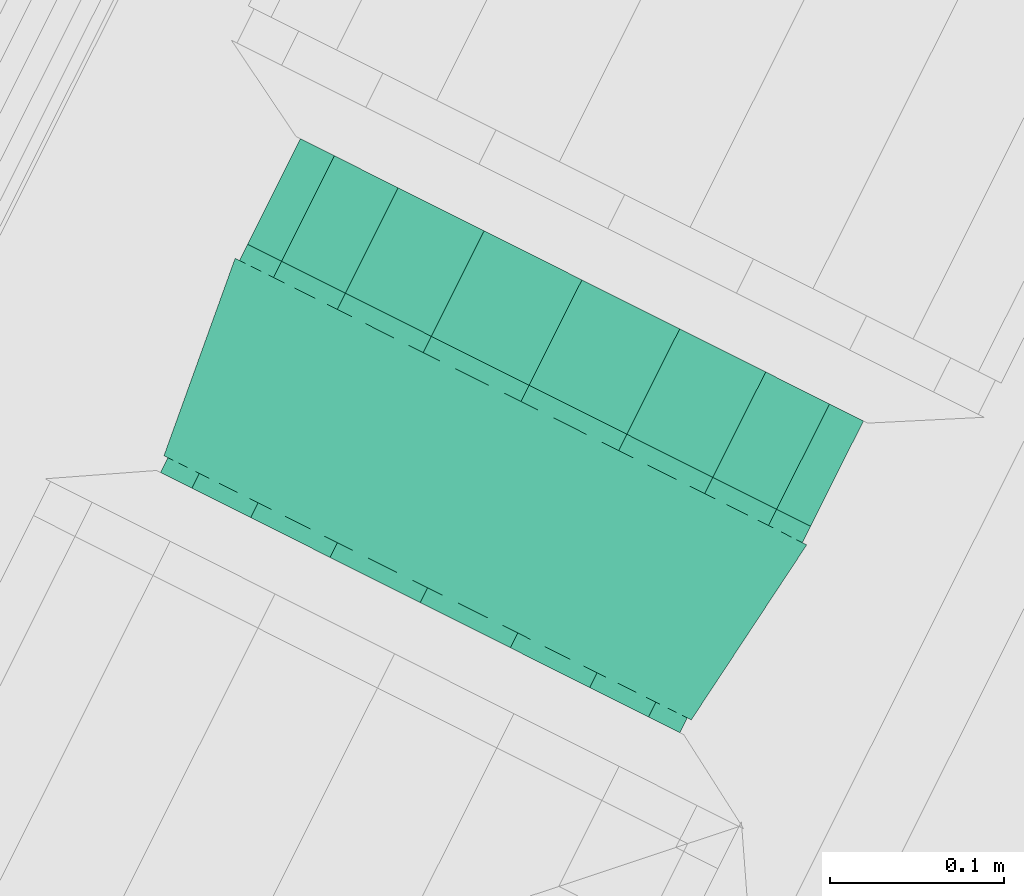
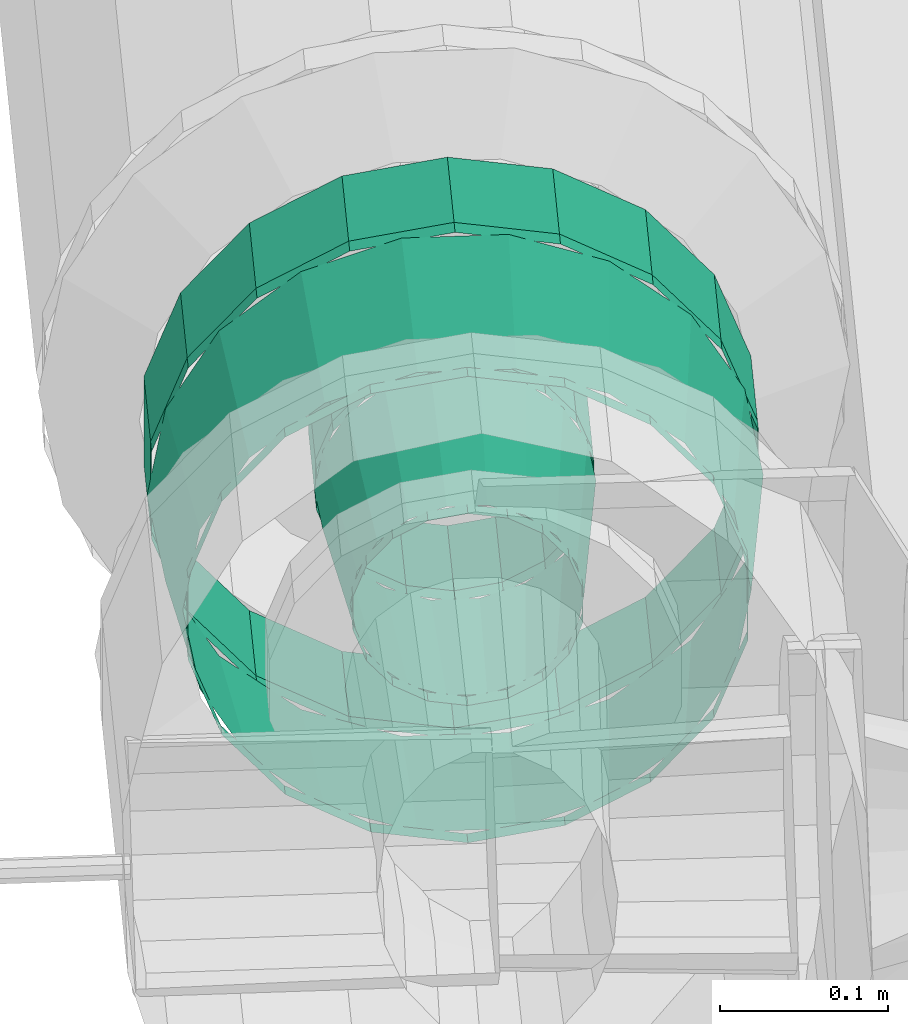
# One storey, part 126 of 206: 1 flow fitting, 1 flow segment.
"""IFC2X3 building model written with IfcOpenShell, lengths in metres."""

import ifcopenshell
import ifcopenshell.guid

model = None  # the IFC model being written
_history = None  # IfcOwnerHistory: only IFC2X3 demands one
_inside = {}  # id of a spatial element -> (the spatial element, [elements in it])
_under = {}  # id of a project, library or spatial element -> (it, [spatial elements below it])
_declared = {}  # id of a project -> (the project, [libraries it declares])
_typed = {}  # id of a type object -> (the type object, [elements of that type])
_made_of = {}  # id of a material, layer set ... -> (it, [elements and type objects made of it])


def new_model(schema):
    """Start an empty IFC model of exactly this schema.

    Asked for "IFC4X3", IfcOpenShell would pick the latest addendum, in which some entities
    have other attributes; the version numbers below select the first issue.
    IFC2X3 requires an IfcOwnerHistory on every rooted entity: one is made here for all.
    """
    global model, _history
    if schema == "IFC4X3":
        model = ifcopenshell.file(schema_version=(4, 3, 0, 0))
    else:
        model = ifcopenshell.file(schema=schema)
    _inside.clear()
    _under.clear()
    _declared.clear()
    _typed.clear()
    _made_of.clear()
    _history = None
    if model.schema == "IFC2X3":
        org = make("IfcOrganization", Name="unknown")
        user = make(
            "IfcPersonAndOrganization",
            ThePerson=make("IfcPerson", FamilyName="unknown"),
            TheOrganization=org,
        )
        app = make(
            "IfcApplication",
            ApplicationDeveloper=org,
            Version="unknown",
            ApplicationFullName="unknown",
            ApplicationIdentifier="unknown",
        )
        _history = make(
            "IfcOwnerHistory",
            OwningUser=user,
            OwningApplication=app,
            ChangeAction="ADDED",
            CreationDate=0,
        )
    return model


def make(cls, **values):
    """One entity of the class cls with the attributes given. An attribute that is None is left unset."""
    return model.create_entity(
        cls, **{name: value for name, value in values.items() if value is not None}
    )


def rooted(cls, **values):
    """An entity with a GlobalId (a new one), such as an element, a storey or a relation."""
    return make(cls, GlobalId=ifcopenshell.guid.new(), OwnerHistory=_history, **values)


def si_unit(unit_type, name, prefix=None):
    """IfcSIUnit, for example si_unit("LENGTHUNIT", "METRE", prefix="MILLI")."""
    return make("IfcSIUnit", UnitType=unit_type, Prefix=prefix, Name=name)


def derived_unit(unit_type, elements):
    """IfcDerivedUnit: a product of units, each with its exponent."""
    return make(
        "IfcDerivedUnit",
        Elements=[
            make("IfcDerivedUnitElement", Unit=unit, Exponent=power)
            for unit, power in elements
        ],
        UnitType=unit_type,
    )


def assignment(units):
    """IfcUnitAssignment: the units of a project."""
    return None if units is None else make("IfcUnitAssignment", Units=units)


def point(xyz):
    """IfcCartesianPoint."""
    return None if xyz is None else make("IfcCartesianPoint", Coordinates=xyz)


def direction(xyz):
    """IfcDirection."""
    return None if xyz is None else make("IfcDirection", DirectionRatios=xyz)


def frame(location, z_axis=None, x_axis=None):
    """IfcAxis2Placement3D, a coordinate frame: its origin and axes. An axis left out is left unset."""
    return make(
        "IfcAxis2Placement3D",
        Location=point(location),
        Axis=direction(z_axis),
        RefDirection=direction(x_axis),
    )


def origin():
    """The frame at (0, 0, 0) with its axes left unset."""
    return frame((0.0, 0.0, 0.0))


def place(relative_to, where):
    """IfcLocalPlacement: puts the frame where relative to a parent placement (None: the world)."""
    return make(
        "IfcLocalPlacement", PlacementRelTo=relative_to, RelativePlacement=where
    )


def context(
    kind, dimensions, precision=None, world=None, true_north=None, identifier=None
):
    """IfcGeometricRepresentationContext, for example the 3D "Model" context."""
    return make(
        "IfcGeometricRepresentationContext",
        ContextIdentifier=identifier,
        ContextType=kind,
        CoordinateSpaceDimension=dimensions,
        Precision=precision,
        WorldCoordinateSystem=world,
        TrueNorth=true_north,
    )


def subcontext(parent, identifier, kind, view, scale=None):
    """IfcGeometricRepresentationSubContext, for example "Body" below "Model"."""
    return make(
        "IfcGeometricRepresentationSubContext",
        ContextIdentifier=identifier,
        ContextType=kind,
        ParentContext=parent,
        TargetScale=scale,
        TargetView=view,
    )


def project(units=None, contexts=None):
    """IfcProject with its units and contexts."""
    return rooted(
        "IfcProject",
        Name="project",
        RepresentationContexts=contexts,
        UnitsInContext=assignment(units),
    )


def spatial(cls, under=None, at=None, **own):
    """A site, building, storey or space (cls), placed at a placement, below another one or the project."""
    s = rooted(cls, ObjectPlacement=at, **own)
    if under is not None:
        _under.setdefault(under.id(), (under, []))[1].append(s)
    return s


def faces_of(points, faces, orient=None, outer=None):
    """IfcFace entities. A face is a list of loops; a loop is a list of indices into points, from 0.

    orient and outer hold one flag for each loop. By default every Orientation is true, the
    first loop of a face is its IfcFaceOuterBound and the others are IfcFaceBound.
    """
    made = []
    for i, loops in enumerate(faces):
        bounds = []
        for j, loop in enumerate(loops):
            is_outer = j == 0 if outer is None else outer[i][j]
            bounds.append(
                make(
                    "IfcFaceOuterBound" if is_outer else "IfcFaceBound",
                    Bound=make("IfcPolyLoop", Polygon=[points[k] for k in loop]),
                    Orientation=True if orient is None else orient[i][j],
                )
            )
        made.append(make("IfcFace", Bounds=bounds))
    return made


def face_set(faces, orient=None, outer=None):
    """The faces of one IfcConnectedFaceSet. surface_model builds it on its shared points."""
    return ("IfcConnectedFaceSet", faces, orient, outer)


def surface_model(cls, points, shells):
    """IfcFaceBasedSurfaceModel or IfcShellBasedSurfaceModel (cls): surfaces that need not close."""
    shared = [point(p) for p in points]
    made = [make(c, CfsFaces=faces_of(shared, fs, o, b)) for c, fs, o, b in shells]
    if cls == "IfcFaceBasedSurfaceModel":
        return make(cls, FbsmFaces=made)
    return make(cls, SbsmBoundary=made)


def shape(context_of_items, identifier, shape_type, items):
    """IfcShapeRepresentation: the items that make up one representation, for example the "Body"."""
    return make(
        "IfcShapeRepresentation",
        ContextOfItems=context_of_items,
        RepresentationIdentifier=identifier,
        RepresentationType=shape_type,
        Items=items,
    )


def source(mapping_origin, context_of_items, identifier, shape_type, items):
    """IfcRepresentationMap: a shape defined once, which mapped items show again and again."""
    return make(
        "IfcRepresentationMap",
        MappingOrigin=mapping_origin,
        MappedRepresentation=shape(context_of_items, identifier, shape_type, items),
    )


def transform(
    local_origin,
    x_axis=None,
    y_axis=None,
    z_axis=None,
    scale=None,
    scale2=None,
    scale3=None,
    uniform=True,
):
    """IfcCartesianTransformationOperator3D, or its non-uniform kind. x_axis, y_axis, z_axis: its Axis1, 2, 3."""
    if uniform:
        return make(
            "IfcCartesianTransformationOperator3D",
            Axis1=direction(x_axis),
            Axis2=direction(y_axis),
            LocalOrigin=point(local_origin),
            Scale=scale,
            Axis3=direction(z_axis),
        )
    return make(
        "IfcCartesianTransformationOperator3DnonUniform",
        Axis1=direction(x_axis),
        Axis2=direction(y_axis),
        LocalOrigin=point(local_origin),
        Scale=scale,
        Axis3=direction(z_axis),
        Scale2=scale2,
        Scale3=scale3,
    )


def mapped(mapping_source, mapping_target):
    """IfcMappedItem: shows the shape of a source again, moved by a transform."""
    return make(
        "IfcMappedItem", MappingSource=mapping_source, MappingTarget=mapping_target
    )


def material(Name=None, Category=None):
    """IfcMaterial."""
    return make("IfcMaterial", Name=Name, Category=Category)


def made_of(thing, what):
    """Note that an element or type object is made of a material, layer set ...; save() writes the relation."""
    if what is not None:
        _made_of.setdefault(what.id(), (what, []))[1].append(thing)
    return thing


def type_object(cls, material=None, **own):
    """A type object (cls), such as IfcWallType, which elements share."""
    return made_of(rooted(cls, **own), material)


def type_shapes(of_type, sources):
    """Give a type object the sources (RepresentationMaps) that its elements show as mapped items."""
    of_type.RepresentationMaps = sources


def element(
    cls,
    number,
    at=None,
    inside=None,
    cuts=None,
    type_object=None,
    material=None,
    context=None,
    identifier="Body",
    shape_type=None,
    held_by="IfcProductDefinitionShape",
    body=None,
    shapes=None,
    **own,
):
    """One element of the class cls, such as IfcWall. Its Tag is "e" and its number.

    at: its placement. inside: the storey or other place that contains it. cuts: it is an
    opening in that element (IfcRelVoidsElement). A single representation is given by context,
    identifier, shape_type and body (its items); several are given by shapes. held_by: the class
    of the entity that holds the representations. save() writes the other relations.
    """
    e = rooted(cls, Tag="e%d" % number, ObjectPlacement=at, **own)
    if body is not None:
        shapes = [shape(context, identifier, shape_type, body)]
    if shapes is not None:
        e.Representation = make(held_by, Representations=shapes)
    if inside is not None:
        _inside.setdefault(inside.id(), (inside, []))[1].append(e)
    if cuts is not None:
        rooted(
            "IfcRelVoidsElement", RelatingBuildingElement=cuts, RelatedOpeningElement=e
        )
    if type_object is not None:
        _typed.setdefault(type_object.id(), (type_object, []))[1].append(e)
    return made_of(e, material)


def aggregate(whole, parts):
    """IfcRelAggregates: a whole, such as a stair, and the parts it consists of."""
    return rooted("IfcRelAggregates", RelatingObject=whole, RelatedObjects=parts)


def save(model, path):
    """Write the relations noted so far, then the file.

    IfcRelAggregates (storeys below a building ...), IfcRelContainedInSpatialStructure (elements
    in a storey), IfcRelDefinesByType, IfcRelAssociatesMaterial and IfcRelDeclares: one each for
    every whole, place, type object, material and project.
    """
    for whole, parts in _under.values():
        aggregate(whole, parts)
    for where, things in _inside.values():
        rooted(
            "IfcRelContainedInSpatialStructure",
            RelatedElements=things,
            RelatingStructure=where,
        )
    for kind, things in _typed.values():
        rooted("IfcRelDefinesByType", RelatedObjects=things, RelatingType=kind)
    for what, things in _made_of.values():
        rooted("IfcRelAssociatesMaterial", RelatedObjects=things, RelatingMaterial=what)
    for by, libraries in _declared.values():
        rooted("IfcRelDeclares", RelatingContext=by, RelatedDefinitions=libraries)
    model.write(path)


model = new_model("IFC2X3")

# Units and contexts
model_context = context("Model", 3, precision=5.2338327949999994e-05, world=origin(), true_north=direction((0.0, 1.0)))
body_context = subcontext(model_context, "Body", "Model", "MODEL_VIEW")
ifc_project = project(units=[si_unit("LENGTHUNIT", "METRE"), si_unit("AREAUNIT", "SQUARE_METRE"), si_unit("VOLUMEUNIT", "CUBIC_METRE"), si_unit("MASSUNIT", "GRAM", prefix="KILO"), si_unit("PLANEANGLEUNIT", "RADIAN"), derived_unit("THERMALTRANSMITTANCEUNIT", [(si_unit("MASSUNIT", "GRAM", prefix="KILO"), 1), (si_unit("THERMODYNAMICTEMPERATUREUNIT", "KELVIN"), -1), (si_unit("TIMEUNIT", "SECOND"), -3)])], contexts=[model_context])

# Site, building, storey
site_placement = place(None, frame((0.0, 0.0, 0.0), z_axis=(0.0, 0.0, 1.0), x_axis=(0.8939966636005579, -0.4480736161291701, 0.0)))
site = spatial("IfcSite", under=ifc_project, at=site_placement, Name="Default", CompositionType="ELEMENT")
building_placement = place(site_placement, origin())
building = spatial("IfcBuilding", under=site, at=building_placement, CompositionType="ELEMENT")
storey_placement = place(building_placement, origin())
storey = spatial("IfcBuildingStorey", under=building, at=storey_placement, Name="Erdgeschoss", CompositionType="ELEMENT", Elevation=0.0)

# Flow fitting
ifc_material = material(Name="IfcSurfaceStyle #1741")
distribution_element_type_1 = type_object("IfcDistributionElementType", Name="Übergangsstück 341104:Übergangsstück 341104", material=ifc_material)
shared_shape_1 = source(origin(), body_context, "Body", "SurfaceModel", [
    surface_model("IfcFaceBasedSurfaceModel", [(25.43985543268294, 6.913961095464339, 2.2841500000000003), (25.415965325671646, 6.913961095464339, 2.2883624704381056), (25.415965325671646, 6.92349026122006, 2.2883624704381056), (25.43985543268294, 6.92349026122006, 2.2841500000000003), (25.394956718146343, 6.913961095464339, 2.30049179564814), (25.394956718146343, 6.92349026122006, 2.30049179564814), (25.379363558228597, 6.913961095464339, 2.3190750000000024), (25.379363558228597, 6.92349026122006, 2.3190750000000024), (25.371066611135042, 6.913961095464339, 2.3418706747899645), (25.371066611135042, 6.92349026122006, 2.3418706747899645), (25.371066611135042, 6.913961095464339, 2.366129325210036), (25.371066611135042, 6.92349026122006, 2.366129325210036), (25.379363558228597, 6.913961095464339, 2.388925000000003), (25.379363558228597, 6.92349026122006, 2.388925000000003), (25.39495671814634, 6.913961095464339, 2.407508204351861), (25.39495671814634, 6.92349026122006, 2.407508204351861), (25.41596532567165, 6.913961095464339, 2.419637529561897), (25.41596532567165, 6.92349026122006, 2.419637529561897), (25.439855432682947, 6.913961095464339, 2.4238500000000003), (25.439855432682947, 6.92349026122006, 2.4238500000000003), (25.46374553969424, 6.913961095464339, 2.419637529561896), (25.46374553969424, 6.92349026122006, 2.4196375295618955), (25.484754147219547, 6.913961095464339, 2.407508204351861), (25.484754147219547, 6.92349026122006, 2.4075082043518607), (25.500347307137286, 6.913961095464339, 2.3889249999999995), (25.500347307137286, 6.92349026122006, 2.3889249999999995), (25.50864425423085, 6.913961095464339, 2.3661293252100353), (25.50864425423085, 6.92349026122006, 2.3661293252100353), (25.50864425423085, 6.913961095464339, 2.3418706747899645), (25.50864425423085, 6.92349026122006, 2.3418706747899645), (25.500347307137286, 6.913961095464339, 2.319075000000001), (25.500347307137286, 6.92349026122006, 2.319075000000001), (25.484754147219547, 6.913961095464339, 2.3004917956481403), (25.484754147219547, 6.92349026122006, 2.3004917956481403), (25.46374553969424, 6.913961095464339, 2.2883624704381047), (25.46374553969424, 6.92349026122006, 2.2883624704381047), (25.37000543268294, 6.92349026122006, 2.3540000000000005), (25.374217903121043, 6.92349026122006, 2.3778901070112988), (25.360780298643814, 7.043501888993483, 2.3827809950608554), (25.355705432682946, 7.043501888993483, 2.354000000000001), (25.386347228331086, 6.92349026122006, 2.3988987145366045), (25.37539279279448, 7.043501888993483, 2.4080905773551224), (25.404930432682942, 6.92349026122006, 2.4144918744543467), (25.39778043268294, 7.043501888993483, 2.4268760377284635), (25.427726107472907, 6.92349026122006, 2.422788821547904), (25.425242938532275, 7.043501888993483, 2.4368715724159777), (25.45198475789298, 6.92349026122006, 2.422788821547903), (25.45446792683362, 7.043501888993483, 2.4368715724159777), (25.474780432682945, 6.92349026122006, 2.4144918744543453), (25.481930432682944, 7.043501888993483, 2.426876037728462), (25.493363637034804, 6.92349026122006, 2.3988987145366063), (25.504318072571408, 7.043501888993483, 2.408090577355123), (25.505492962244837, 6.92349026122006, 2.3778901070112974), (25.51893056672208, 7.043501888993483, 2.382780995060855), (25.50970543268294, 6.92349026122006, 2.353999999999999), (25.524005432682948, 7.043501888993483, 2.354), (25.505492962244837, 6.92349026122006, 2.330109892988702), (25.518930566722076, 7.043501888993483, 2.3252190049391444), (25.4933636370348, 6.92349026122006, 2.3091012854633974), (25.504318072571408, 7.043501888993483, 2.2999094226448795), (25.474780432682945, 6.92349026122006, 2.2935081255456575), (25.481930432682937, 7.043501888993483, 2.281123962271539), (25.45198475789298, 6.92349026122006, 2.2852111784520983), (25.454467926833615, 7.043501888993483, 2.2711284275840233), (25.427726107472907, 6.92349026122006, 2.285211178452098), (25.425242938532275, 7.043501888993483, 2.271128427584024), (25.404930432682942, 6.92349026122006, 2.2935081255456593), (25.39778043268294, 7.043501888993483, 2.2811239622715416), (25.386347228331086, 6.92349026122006, 2.309101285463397), (25.375392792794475, 7.043501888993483, 2.29990942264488), (25.374217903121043, 6.92349026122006, 2.330109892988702), (25.36078029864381, 7.043501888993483, 2.3252190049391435), (25.43985543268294, 7.043501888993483, 2.2698500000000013), (25.411074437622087, 7.043501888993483, 2.2749248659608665), (25.411074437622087, 7.053961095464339, 2.2749248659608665), (25.43985543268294, 7.053961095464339, 2.2698500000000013), (25.38576485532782, 7.043501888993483, 2.28953736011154), (25.38576485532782, 7.053961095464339, 2.28953736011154), (25.366979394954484, 7.043501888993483, 2.311925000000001), (25.366979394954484, 7.053961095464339, 2.311925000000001), (25.356983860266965, 7.043501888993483, 2.3393875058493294), (25.356983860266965, 7.053961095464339, 2.3393875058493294), (25.35698386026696, 7.043501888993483, 2.3686124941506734), (25.35698386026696, 7.053961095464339, 2.3686124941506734), (25.366979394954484, 7.043501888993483, 2.396075), (25.366979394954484, 7.053961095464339, 2.396075), (25.385764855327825, 7.043501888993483, 2.4184626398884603), (25.385764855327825, 7.053961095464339, 2.4184626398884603), (25.41107443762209, 7.043501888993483, 2.433075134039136), (25.41107443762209, 7.053961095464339, 2.433075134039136), (25.439855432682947, 7.043501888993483, 2.4381500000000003), (25.439855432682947, 7.053961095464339, 2.4381500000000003), (25.4686364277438, 7.043501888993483, 2.4330751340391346), (25.4686364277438, 7.053961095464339, 2.4330751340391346), (25.493946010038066, 7.043501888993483, 2.4184626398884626), (25.493946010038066, 7.053961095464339, 2.4184626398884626), (25.512731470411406, 7.043501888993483, 2.396074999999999), (25.512731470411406, 7.053961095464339, 2.396074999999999), (25.522727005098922, 7.043501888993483, 2.3686124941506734), (25.522727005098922, 7.053961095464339, 2.3686124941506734), (25.522727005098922, 7.043501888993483, 2.339387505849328), (25.522727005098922, 7.053961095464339, 2.339387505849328), (25.512731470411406, 7.043501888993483, 2.3119249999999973), (25.512731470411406, 7.053961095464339, 2.3119249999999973), (25.493946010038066, 7.043501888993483, 2.289537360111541), (25.493946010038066, 7.053961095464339, 2.289537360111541), (25.468636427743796, 7.043501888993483, 2.274924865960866), (25.468636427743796, 7.053961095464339, 2.274924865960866), (25.43985543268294, 6.913961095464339, 2.18415), (25.38176331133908, 6.913961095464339, 2.1943932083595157), (25.38176331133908, 6.92349026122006, 2.1943932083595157), (25.43985543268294, 6.92349026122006, 2.18415), (25.330677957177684, 6.913961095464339, 2.2238873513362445), (25.330677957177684, 6.92349026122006, 2.2238873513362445), (25.292761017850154, 6.913961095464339, 2.2690750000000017), (25.292761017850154, 6.92349026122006, 2.2690750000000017), (25.27258583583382, 6.913961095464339, 2.324505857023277), (25.27258583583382, 6.92349026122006, 2.324505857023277), (25.27258583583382, 6.913961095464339, 2.3834941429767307), (25.27258583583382, 6.92349026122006, 2.3834941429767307), (25.292761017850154, 6.913961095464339, 2.438925), (25.292761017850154, 6.92349026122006, 2.438925), (25.330677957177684, 6.913961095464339, 2.4841126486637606), (25.330677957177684, 6.92349026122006, 2.4841126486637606), (25.381763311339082, 6.913961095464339, 2.513606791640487), (25.381763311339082, 6.92349026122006, 2.513606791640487), (25.439855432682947, 6.913961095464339, 2.5238500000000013), (25.439855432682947, 6.92349026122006, 2.5238500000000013), (25.49794755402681, 6.913961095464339, 2.5136067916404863), (25.49794755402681, 6.92349026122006, 2.5136067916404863), (25.549032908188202, 6.913961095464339, 2.4841126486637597), (25.549032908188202, 6.92349026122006, 2.4841126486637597), (25.586949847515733, 6.913961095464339, 2.4389249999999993), (25.586949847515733, 6.92349026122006, 2.4389249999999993), (25.607125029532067, 6.913961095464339, 2.383494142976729), (25.607125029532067, 6.92349026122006, 2.383494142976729), (25.607125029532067, 6.913961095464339, 2.3245058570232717), (25.607125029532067, 6.92349026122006, 2.3245058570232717), (25.58694984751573, 6.913961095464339, 2.2690749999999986), (25.58694984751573, 6.92349026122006, 2.2690749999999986), (25.5490329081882, 6.913961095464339, 2.223887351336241), (25.5490329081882, 6.92349026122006, 2.223887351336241), (25.497947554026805, 6.913961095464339, 2.1943932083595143), (25.497947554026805, 6.92349026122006, 2.1943932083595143), (25.270005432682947, 6.92349026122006, 2.354000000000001), (25.280248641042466, 6.92349026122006, 2.4120921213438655), (25.266811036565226, 7.043501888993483, 2.4169830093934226), (25.255705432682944, 7.043501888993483, 2.3540000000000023), (25.309742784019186, 6.92349026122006, 2.4631774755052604), (25.29878834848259, 7.043501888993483, 2.4723693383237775), (25.35493043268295, 6.92349026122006, 2.5010944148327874), (25.347780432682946, 7.043501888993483, 2.5134785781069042), (25.41036128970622, 6.92349026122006, 2.521269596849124), (25.40787812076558, 7.043501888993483, 2.535352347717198), (25.46934957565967, 6.92349026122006, 2.5212695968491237), (25.47183274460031, 7.043501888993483, 2.5353523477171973), (25.524780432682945, 6.92349026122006, 2.5010944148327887), (25.531930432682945, 7.043501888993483, 2.5134785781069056), (25.569968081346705, 6.92349026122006, 2.4631774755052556), (25.5809225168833, 7.043501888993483, 2.4723693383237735), (25.599462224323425, 6.92349026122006, 2.412092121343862), (25.612899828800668, 7.043501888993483, 2.4169830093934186), (25.609705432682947, 6.92349026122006, 2.3539999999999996), (25.624005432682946, 7.043501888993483, 2.3539999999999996), (25.599462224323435, 6.92349026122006, 2.2959078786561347), (25.61289982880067, 7.043501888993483, 2.2910169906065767), (25.5699680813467, 6.92349026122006, 2.2448225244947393), (25.580922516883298, 7.043501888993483, 2.235630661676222), (25.52478043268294, 6.92349026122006, 2.206905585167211), (25.53193043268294, 7.043501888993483, 2.194521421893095), (25.46934957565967, 6.92349026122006, 2.1867304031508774), (25.471832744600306, 7.043501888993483, 2.1726476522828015), (25.410361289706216, 6.92349026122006, 2.186730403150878), (25.40787812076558, 7.043501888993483, 2.1726476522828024), (25.354930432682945, 6.92349026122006, 2.2069055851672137), (25.347780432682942, 7.043501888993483, 2.194521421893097), (25.309742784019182, 6.92349026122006, 2.244822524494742), (25.298788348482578, 7.043501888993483, 2.2356306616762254), (25.280248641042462, 6.92349026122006, 2.2959078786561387), (25.26681103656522, 7.043501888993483, 2.2910169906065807), (25.439855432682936, 7.043501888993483, 2.1698500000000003), (25.37687242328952, 7.043501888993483, 2.1809556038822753), (25.37687242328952, 7.053961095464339, 2.1809556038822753), (25.439855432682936, 7.053961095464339, 2.1698500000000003), (25.32148609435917, 7.043501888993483, 2.2129329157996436), (25.32148609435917, 7.053961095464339, 2.2129329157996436), (25.280376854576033, 7.043501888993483, 2.2619250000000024), (25.280376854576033, 7.053961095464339, 2.2619250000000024), (25.258503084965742, 7.043501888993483, 2.322022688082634), (25.258503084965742, 7.053961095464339, 2.322022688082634), (25.258503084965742, 7.043501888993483, 2.3859773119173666), (25.258503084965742, 7.053961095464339, 2.3859773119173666), (25.28037685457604, 7.043501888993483, 2.446075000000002), (25.28037685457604, 7.053961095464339, 2.446075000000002), (25.321486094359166, 7.043501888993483, 2.495067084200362), (25.321486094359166, 7.053961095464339, 2.495067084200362), (25.376872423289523, 7.043501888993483, 2.527044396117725), (25.376872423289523, 7.053961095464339, 2.527044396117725), (25.439855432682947, 7.043501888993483, 2.538149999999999), (25.439855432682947, 7.053961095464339, 2.538149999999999), (25.502838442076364, 7.043501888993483, 2.5270443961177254), (25.502838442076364, 7.053961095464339, 2.5270443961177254), (25.55822477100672, 7.043501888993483, 2.4950670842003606), (25.55822477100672, 7.053961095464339, 2.4950670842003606), (25.599334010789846, 7.043501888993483, 2.446074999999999), (25.599334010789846, 7.053961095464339, 2.446074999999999), (25.621207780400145, 7.043501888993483, 2.385977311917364), (25.621207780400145, 7.053961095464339, 2.385977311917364), (25.621207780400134, 7.043501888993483, 2.3220226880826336), (25.621207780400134, 7.053961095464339, 2.3220226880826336), (25.599334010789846, 7.043501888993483, 2.261924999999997), (25.599334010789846, 7.053961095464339, 2.261924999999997), (25.55822477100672, 7.043501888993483, 2.2129329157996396), (25.55822477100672, 7.053961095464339, 2.2129329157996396), (25.502838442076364, 7.043501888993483, 2.180955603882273), (25.502838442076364, 7.053961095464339, 2.180955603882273)], [face_set([[[0, 1, 2, 3]], [[1, 4, 5, 2]], [[4, 6, 7, 5]], [[6, 8, 9, 7]], [[8, 10, 11, 9]], [[10, 12, 13, 11]], [[12, 14, 15, 13]], [[14, 16, 17, 15]], [[16, 18, 19, 17]], [[18, 20, 21, 19]], [[20, 22, 23, 21]], [[22, 24, 25, 23]], [[24, 26, 27, 25]], [[26, 28, 29, 27]], [[28, 30, 31, 29]], [[30, 32, 33, 31]], [[32, 34, 35, 33]], [[34, 0, 3, 35]], [[36, 37, 38, 39]], [[37, 40, 41, 38]], [[40, 42, 43, 41]], [[42, 44, 45, 43]], [[44, 46, 47, 45]], [[46, 48, 49, 47]], [[48, 50, 51, 49]], [[50, 52, 53, 51]], [[52, 54, 55, 53]], [[54, 56, 57, 55]], [[56, 58, 59, 57]], [[58, 60, 61, 59]], [[60, 62, 63, 61]], [[62, 64, 65, 63]], [[64, 66, 67, 65]], [[66, 68, 69, 67]], [[68, 70, 71, 69]], [[70, 36, 39, 71]], [[72, 73, 74, 75]], [[73, 76, 77, 74]], [[76, 78, 79, 77]], [[78, 80, 81, 79]], [[80, 82, 83, 81]], [[82, 84, 85, 83]], [[84, 86, 87, 85]], [[86, 88, 89, 87]], [[88, 90, 91, 89]], [[90, 92, 93, 91]], [[92, 94, 95, 93]], [[94, 96, 97, 95]], [[96, 98, 99, 97]], [[98, 100, 101, 99]], [[100, 102, 103, 101]], [[102, 104, 105, 103]], [[104, 106, 107, 105]], [[106, 72, 75, 107]], [[108, 109, 110, 111]], [[109, 112, 113, 110]], [[112, 114, 115, 113]], [[114, 116, 117, 115]], [[116, 118, 119, 117]], [[118, 120, 121, 119]], [[120, 122, 123, 121]], [[122, 124, 125, 123]], [[124, 126, 127, 125]], [[126, 128, 129, 127]], [[128, 130, 131, 129]], [[130, 132, 133, 131]], [[132, 134, 135, 133]], [[134, 136, 137, 135]], [[136, 138, 139, 137]], [[138, 140, 141, 139]], [[140, 142, 143, 141]], [[142, 108, 111, 143]], [[144, 145, 146, 147]], [[145, 148, 149, 146]], [[148, 150, 151, 149]], [[150, 152, 153, 151]], [[152, 154, 155, 153]], [[154, 156, 157, 155]], [[156, 158, 159, 157]], [[158, 160, 161, 159]], [[160, 162, 163, 161]], [[162, 164, 165, 163]], [[164, 166, 167, 165]], [[166, 168, 169, 167]], [[168, 170, 171, 169]], [[170, 172, 173, 171]], [[172, 174, 175, 173]], [[174, 176, 177, 175]], [[176, 178, 179, 177]], [[178, 144, 147, 179]], [[180, 181, 182, 183]], [[181, 184, 185, 182]], [[184, 186, 187, 185]], [[186, 188, 189, 187]], [[188, 190, 191, 189]], [[190, 192, 193, 191]], [[192, 194, 195, 193]], [[194, 196, 197, 195]], [[196, 198, 199, 197]], [[198, 200, 201, 199]], [[200, 202, 203, 201]], [[202, 204, 205, 203]], [[204, 206, 207, 205]], [[206, 208, 209, 207]], [[208, 210, 211, 209]], [[210, 212, 213, 211]], [[212, 214, 215, 213]], [[214, 180, 183, 215]]])]),
])
type_shapes(distribution_element_type_1, [shared_shape_1])
flow_fitting_placement = place(storey_placement, origin())
element("IfcFlowFitting", 1, at=flow_fitting_placement, inside=storey, type_object=distribution_element_type_1, material=ifc_material, Name="Übergangsstück", ObjectType="Übergangsstück", context=body_context, shape_type="MappedRepresentation", body=[
    mapped(shared_shape_1, transform((0.0, 0.0, 0.0), scale=1.0)),
])

# Flow segment
distribution_element_type_2 = type_object("IfcDistributionElementType", Name="Stahlrohr nach DIN 2448 341127:Stahlrohr nach DIN 2448 341127", material=ifc_material)
shared_shape_2 = source(origin(), body_context, "Body", "SurfaceModel", [
    surface_model("IfcFaceBasedSurfaceModel", [(25.439855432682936, 7.053961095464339, 2.43815), (25.468636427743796, 7.053961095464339, 2.433075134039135), (25.4686364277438, 7.12189267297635, 2.4330751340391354), (25.43985543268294, 7.12189267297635, 2.43815), (25.493946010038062, 7.053961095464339, 2.418462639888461), (25.493946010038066, 7.12189267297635, 2.4184626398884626), (25.5127314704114, 7.053961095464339, 2.396075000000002), (25.512731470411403, 7.12189267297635, 2.396075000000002), (25.522727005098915, 7.053961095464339, 2.3686124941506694), (25.522727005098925, 7.12189267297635, 2.368612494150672), (25.522727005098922, 7.053961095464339, 2.339387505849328), (25.522727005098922, 7.12189267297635, 2.339387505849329), (25.5127314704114, 7.053961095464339, 2.3119250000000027), (25.5127314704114, 7.12189267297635, 2.3119250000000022), (25.493946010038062, 7.053961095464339, 2.289537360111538), (25.493946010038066, 7.12189267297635, 2.2895373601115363), (25.468636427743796, 7.053961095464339, 2.274924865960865), (25.4686364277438, 7.12189267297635, 2.2749248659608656), (25.439855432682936, 7.0539610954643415, 2.2698499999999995), (25.43985543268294, 7.12189267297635, 2.2698500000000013), (25.411074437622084, 7.053961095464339, 2.2749248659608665), (25.41107443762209, 7.12189267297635, 2.274924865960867), (25.385764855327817, 7.053961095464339, 2.2895373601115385), (25.385764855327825, 7.12189267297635, 2.289537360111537), (25.366979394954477, 7.053961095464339, 2.3119249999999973), (25.366979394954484, 7.12189267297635, 2.3119249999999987), (25.35698386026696, 7.053961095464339, 2.3393875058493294), (25.356983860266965, 7.12189267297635, 2.3393875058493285), (25.35698386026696, 7.053961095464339, 2.3686124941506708), (25.356983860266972, 7.12189267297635, 2.368612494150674), (25.366979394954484, 7.053961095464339, 2.3960749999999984), (25.366979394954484, 7.12189267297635, 2.3960749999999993), (25.385764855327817, 7.053961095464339, 2.4184626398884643), (25.38576485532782, 7.12189267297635, 2.418462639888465), (25.411074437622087, 7.053961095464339, 2.4330751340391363), (25.41107443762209, 7.12189267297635, 2.4330751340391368), (25.43985543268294, 7.053961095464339, 2.538150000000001), (25.50283844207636, 7.053961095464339, 2.52704439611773), (25.502838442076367, 7.12189267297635, 2.527044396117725), (25.43985543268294, 7.12189267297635, 2.5381499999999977), (25.558224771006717, 7.053961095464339, 2.495067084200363), (25.558224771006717, 7.12189267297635, 2.495067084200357), (25.599334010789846, 7.053961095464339, 2.4460749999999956), (25.599334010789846, 7.12189267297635, 2.446074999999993), (25.621207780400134, 7.053961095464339, 2.3859773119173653), (25.621207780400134, 7.12189267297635, 2.3859773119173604), (25.621207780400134, 7.053961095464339, 2.3220226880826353), (25.621207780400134, 7.12189267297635, 2.32202268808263), (25.599334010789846, 7.053961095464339, 2.261924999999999), (25.599334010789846, 7.12189267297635, 2.2619249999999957), (25.558224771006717, 7.053961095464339, 2.21293291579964), (25.558224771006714, 7.12189267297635, 2.2129329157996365), (25.50283844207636, 7.053961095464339, 2.180955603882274), (25.502838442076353, 7.12189267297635, 2.1809556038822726), (25.439855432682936, 7.053961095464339, 2.1698499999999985), (25.439855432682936, 7.12189267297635, 2.1698499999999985), (25.37687242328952, 7.053961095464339, 2.1809556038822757), (25.37687242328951, 7.12189267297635, 2.1809556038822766), (25.32148609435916, 7.053961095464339, 2.21293291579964), (25.321486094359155, 7.12189267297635, 2.2129329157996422), (25.280376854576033, 7.053961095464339, 2.2619249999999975), (25.28037685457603, 7.12189267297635, 2.261925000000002), (25.258503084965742, 7.053961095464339, 2.3220226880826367), (25.25850308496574, 7.12189267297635, 2.3220226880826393), (25.258503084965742, 7.053961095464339, 2.385977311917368), (25.258503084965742, 7.12189267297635, 2.3859773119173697), (25.280376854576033, 7.053961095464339, 2.4460750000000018), (25.280376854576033, 7.12189267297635, 2.446075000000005), (25.321486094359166, 7.053961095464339, 2.4950670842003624), (25.32148609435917, 7.12189267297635, 2.4950670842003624), (25.376872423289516, 7.053961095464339, 2.527044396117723), (25.37687242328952, 7.12189267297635, 2.527044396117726)], [face_set([[[0, 1, 2, 3]], [[1, 4, 5, 2]], [[4, 6, 7, 5]], [[6, 8, 9, 7]], [[8, 10, 11, 9]], [[10, 12, 13, 11]], [[12, 14, 15, 13]], [[14, 16, 17, 15]], [[16, 18, 19, 17]], [[18, 20, 21, 19]], [[20, 22, 23, 21]], [[22, 24, 25, 23]], [[24, 26, 27, 25]], [[26, 28, 29, 27]], [[28, 30, 31, 29]], [[30, 32, 33, 31]], [[32, 34, 35, 33]], [[34, 0, 3, 35]], [[36, 37, 38, 39]], [[37, 40, 41, 38]], [[40, 42, 43, 41]], [[42, 44, 45, 43]], [[44, 46, 47, 45]], [[46, 48, 49, 47]], [[48, 50, 51, 49]], [[50, 52, 53, 51]], [[52, 54, 55, 53]], [[54, 56, 57, 55]], [[56, 58, 59, 57]], [[58, 60, 61, 59]], [[60, 62, 63, 61]], [[62, 64, 65, 63]], [[64, 66, 67, 65]], [[66, 68, 69, 67]], [[68, 70, 71, 69]], [[70, 36, 39, 71]]])]),
])
type_shapes(distribution_element_type_2, [shared_shape_2])
flow_segment_placement = place(storey_placement, origin())
element("IfcFlowSegment", 2, at=flow_segment_placement, inside=storey, type_object=distribution_element_type_2, material=ifc_material, Name="Stahlrohr nach DIN 2448", ObjectType="Stahlrohr nach DIN 2448", context=body_context, shape_type="MappedRepresentation", body=[
    mapped(shared_shape_2, transform((0.0, 0.0, 0.0), scale=1.0)),
])

save(model, "model.ifc")
